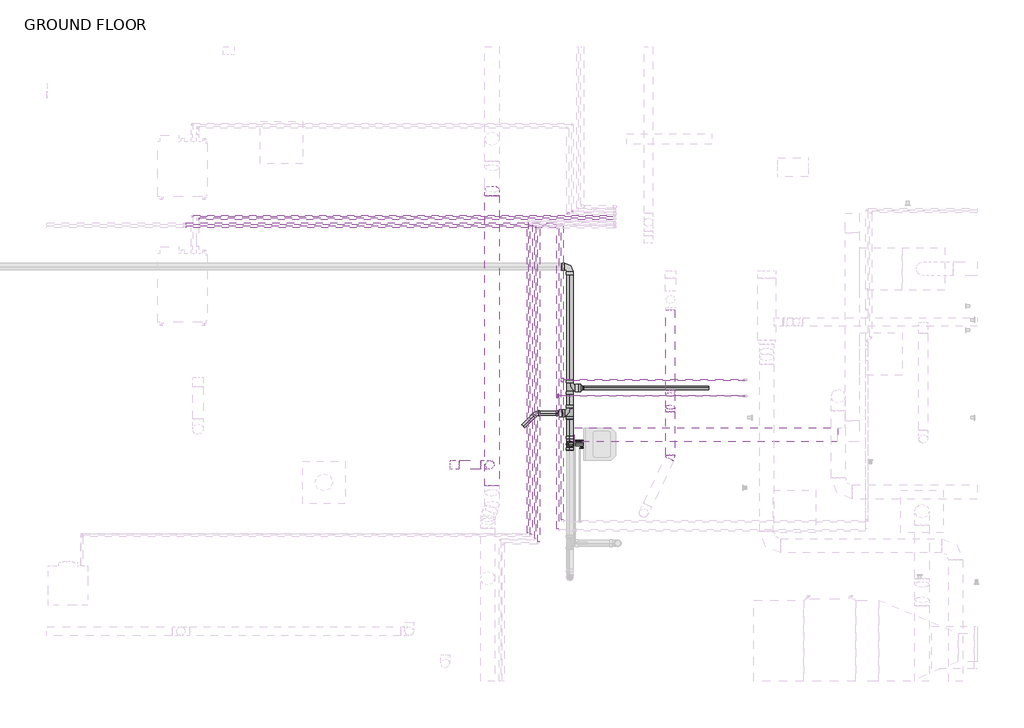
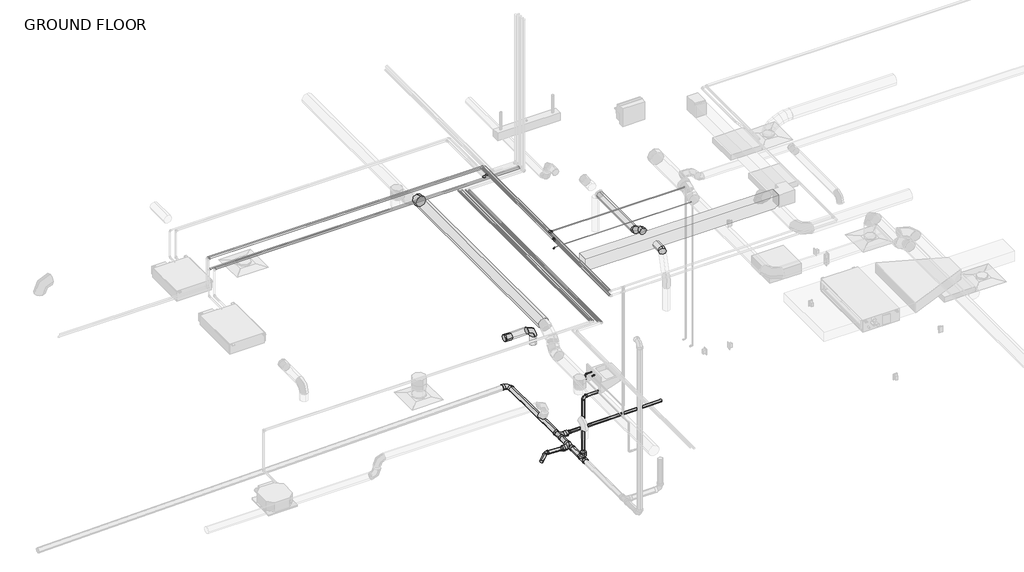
# One storey, part 13 of 22: 26 pipe segments, 20 pipe fittings, 7 duct segments, 6 duct fittings.
"""IFC4 building model written with IfcOpenShell, lengths in millimetres."""

from ifc_helpers import new_model, si_unit, point, frame, frame_2d, origin, place, context, project, spatial, polyline, circle_curve, trimmed, segment, composite_curve, outline, extrude, transform, mapped, element, save
from components import round_elbow_1_d_c80420c1, round_elbow_1_d_e295ca55, round_elbow_1_d_3986cbc1, round_elbow_1_d_d064e566, round_takeoff_standard_272bb003, bend_pvc_sch_40_dwv_standard_56513ac6, bend_pvc_sch_40_dwv_standard_ededf42e, bend_pvc_sch_40_dwv_standard_e753eb36, elbow_generic_standard_c06ac706, elbow_generic_standard_738589b0, elbow_generic_standard_a088f956, reducer_pvc_sch_40_dwv_standard_bed7e4d3, reducer_pvc_sch_40_dwv_standard_464ee0c2, reducer_pvc_sch_40_dwv_standard_215a8765, tee_generic_standard_d345b28c, tee_sanitary_pvc_sch_40_dwv_standard_1c89b272, tee_sanitary_pvc_sch_40_dwv_standard_8de014e1, tee_sanitary_pvc_sch_40_dwv_standard_db5afb07, transition_generic_standard_19d9bb8b

model = new_model("IFC4")

# Units and contexts
model_context = context("Model", 3, world=origin())
ifc_project = project(units=[si_unit("LENGTHUNIT", "METRE", prefix="MILLI")], contexts=[model_context])

# Site, building, storey
site = spatial("IfcSite", under=ifc_project)
building = spatial("IfcBuilding", under=site)
storey = spatial("IfcBuildingStorey", under=building, Name="GROUND FLOOR", Elevation=30480.0)

# Duct fittings
placement = place(None, origin())
round_elbow_1_d_shape = round_elbow_1_d_c80420c1(model_context)
element("IfcDuctFitting", 1, ObjectType="Round Elbow : 1 D", at=placement, inside=storey, context=model_context, shape_type="MappedRepresentation", body=[
    mapped(round_elbow_1_d_shape, transform((-11225.8454607, 4001.4945005, 33121.6), x_axis=(0.0, 0.0, 1.0), y_axis=(-1.0, 0.0, 0.0), z_axis=(0.0, -1.0, 0.0))),
])
round_elbow_1_d_2_shape = round_elbow_1_d_e295ca55(model_context)
element("IfcDuctFitting", 2, ObjectType="Round Elbow : 1 D", at=placement, inside=storey, context=model_context, shape_type="MappedRepresentation", body=[
    mapped(round_elbow_1_d_2_shape, transform((-11194.8892107, 7909.4416846, 33401.0), x_axis=(0.0, 1.0, 0.0), y_axis=(0.0, 0.0, -1.0), z_axis=(-1.0, 0.0, 0.0))),
])
round_elbow_1_d_3_shape = round_elbow_1_d_3986cbc1(model_context)
element("IfcDuctFitting", 3, ObjectType="Round Elbow : 1 D", at=placement, inside=storey, context=model_context, shape_type="MappedRepresentation", body=[
    mapped(round_elbow_1_d_3_shape, transform((-8636.6329607, 5039.7195005, 33629.6), x_axis=(0.0, -1.0, 0.0), y_axis=(0.0, 0.0, 1.0), z_axis=(-1.0, 0.0, 0.0))),
])
element("IfcDuctFitting", 4, ObjectType="Round Elbow : 1 D", at=placement, inside=storey, context=model_context, shape_type="MappedRepresentation", body=[
    mapped(round_elbow_1_d_3_shape, transform((-8636.6329607, 4797.7520027, 33769.3), x_axis=(0.0, -0.8660254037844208, 0.5000000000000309), y_axis=(0.0, -0.5000000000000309, -0.8660254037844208), z_axis=(1.0, 0.0, 0.0))),
])
round_elbow_1_d_4_shape = round_elbow_1_d_d064e566(model_context)
element("IfcDuctFitting", 5, ObjectType="Round Elbow : 1 D", at=placement, inside=storey, context=model_context, shape_type="MappedRepresentation", body=[
    mapped(round_elbow_1_d_4_shape, transform((-8636.6329607, 4111.9520027, 33769.3), x_axis=(0.4302942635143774, 0.9026886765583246, 0.0), y_axis=(-0.9026886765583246, 0.4302942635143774, 0.0), z_axis=(0.0, 0.0, 1.0))),
])
round_takeoff_standard_shape = round_takeoff_standard_272bb003(model_context)
element("IfcDuctFitting", 6, ObjectType="Round Takeoff : Standard", at=placement, inside=storey, context=model_context, shape_type="MappedRepresentation", body=[
    mapped(round_takeoff_standard_shape, transform((-11764.8513201, 4001.4945005, 33121.6), x_axis=(1.0, 0.0, 0.0), y_axis=(0.0, -1.0, 0.0), z_axis=(0.0, 0.0, -1.0))),
])

# Duct segments
element("IfcDuctSegment", 7, ObjectType="Mitered Elbows / Taps", at=placement, inside=storey, context=model_context, shape_type="SweptSolid", body=[
    extrude(outline(polyline([(-10008.1055151, 4328.5195005), (-10008.1055151, 4531.7195005), (-6233.0204015, 4531.7195005), (-6233.0204015, 4328.5195005), (-10008.1055151, 4328.5195005)])), frame((0.0, 0.0, 33680.4), z_axis=(0.0, 0.0, 1.0), x_axis=(1.0, 0.0, 0.0)), (0.0, 0.0, 1.0), 254.0),
])
element("IfcDuctSegment", 8, ObjectType="Taps / Short Radius", at=placement, inside=storey, context=model_context, shape_type="SweptSolid", body=[
    extrude(outline(composite_curve([segment(trimmed(circle_curve(frame_2d((33401.0, -11194.8892107)), 101.6), [point((33401.0, -11296.4892107))], [point((33299.4, -11194.8892107))], False, "CARTESIAN"), True, "CONTINUOUS"), segment(trimmed(circle_curve(frame_2d((33401.0, -11194.8892107)), 101.6), [point((33299.4, -11194.8892107))], [point((33401.0, -11093.2892107))], False, "CARTESIAN"), True, "CONTINUOUS"), segment(trimmed(circle_curve(frame_2d((33401.0, -11194.8892107)), 101.6), [point((33401.0, -11093.2892107))], [point((33502.6, -11194.8892107))], False, "CARTESIAN"), True, "CONTINUOUS"), segment(trimmed(circle_curve(frame_2d((33401.0, -11194.8892107)), 101.6), [point((33502.6, -11194.8892107))], [point((33401.0, -11296.4892107))], False, "CARTESIAN"), True, "CONTINUOUS")], self_intersect=False)), frame((0.0, 3698.5539502, 0.0), z_axis=(0.0, 1.0, 0.0), x_axis=(0.0, 0.0, 1.0)), (0.0, 0.0, 1.0), 4162.0088278),
])
element("IfcDuctSegment", 9, ObjectType="Taps / Short Radius", at=placement, inside=storey, context=model_context, shape_type="SweptSolid", body=[
    extrude(outline(composite_curve([segment(trimmed(circle_curve(frame_2d((-11225.8454607, 4001.4945005)), 63.5), [point((-11289.3454607, 4001.4945005))], [point((-11225.8454607, 4064.9945005))], False, "CARTESIAN"), True, "CONTINUOUS"), segment(trimmed(circle_curve(frame_2d((-11225.8454607, 4001.4945005)), 63.5), [point((-11225.8454607, 4064.9945005))], [point((-11162.3454607, 4001.4945005))], False, "CARTESIAN"), True, "CONTINUOUS"), segment(trimmed(circle_curve(frame_2d((-11225.8454607, 4001.4945005)), 63.5), [point((-11162.3454607, 4001.4945005))], [point((-11225.8454607, 3937.9945005))], False, "CARTESIAN"), True, "CONTINUOUS"), segment(trimmed(circle_curve(frame_2d((-11225.8454607, 4001.4945005)), 63.5), [point((-11225.8454607, 3937.9945005))], [point((-11289.3454607, 4001.4945005))], False, "CARTESIAN"), True, "CONTINUOUS")], self_intersect=False)), frame((0.0, 0.0, 32816.8), z_axis=(0.0, 0.0, 1.0), x_axis=(1.0, 0.0, 0.0)), (0.0, 0.0, 1.0), 177.8),
])
element("IfcDuctSegment", 10, ObjectType="Taps / Short Radius", at=placement, inside=storey, context=model_context, shape_type="SweptSolid", body=[
    extrude(outline(composite_curve([segment(trimmed(circle_curve(frame_2d((4001.4945005, 33121.6)), 63.5), [point((4064.9945005, 33121.6))], [point((4001.4945005, 33058.1))], False, "CARTESIAN"), True, "CONTINUOUS"), segment(trimmed(circle_curve(frame_2d((4001.4945005, 33121.6)), 63.5), [point((4001.4945005, 33058.1))], [point((3937.9945005, 33121.6))], False, "CARTESIAN"), True, "CONTINUOUS"), segment(trimmed(circle_curve(frame_2d((4001.4945005, 33121.6)), 63.5), [point((3937.9945005, 33121.6))], [point((4001.4945005, 33185.1))], False, "CARTESIAN"), True, "CONTINUOUS"), segment(trimmed(circle_curve(frame_2d((4001.4945005, 33121.6)), 63.5), [point((4001.4945005, 33185.1))], [point((4064.9945005, 33121.6))], False, "CARTESIAN"), True, "CONTINUOUS")], self_intersect=False)), frame((-11663.2513201, 0.0, 0.0), z_axis=(1.0, 0.0, 0.0), x_axis=(0.0, 1.0, 0.0)), (0.0, 0.0, 1.0), 310.4058594),
])
element("IfcDuctSegment", 11, ObjectType="Taps / Short Radius", at=placement, inside=storey, context=model_context, shape_type="SweptSolid", body=[
    extrude(outline(composite_curve([segment(trimmed(circle_curve(frame_2d((33629.6, -8636.6329607)), 63.5), [point((33629.6, -8700.1329607))], [point((33566.1, -8636.6329607))], False, "CARTESIAN"), True, "CONTINUOUS"), segment(trimmed(circle_curve(frame_2d((33629.6, -8636.6329607)), 63.5), [point((33566.1, -8636.6329607))], [point((33629.6, -8573.1329607))], False, "CARTESIAN"), True, "CONTINUOUS"), segment(trimmed(circle_curve(frame_2d((33629.6, -8636.6329607)), 63.5), [point((33629.6, -8573.1329607))], [point((33693.1, -8636.6329607))], False, "CARTESIAN"), True, "CONTINUOUS"), segment(trimmed(circle_curve(frame_2d((33629.6, -8636.6329607)), 63.5), [point((33693.1, -8636.6329607))], [point((33629.6, -8700.1329607))], False, "CARTESIAN"), True, "CONTINUOUS")], self_intersect=False)), frame((0.0, 5073.749048, 0.0), z_axis=(0.0, 1.0, 0.0), x_axis=(0.0, 0.0, 1.0)), (0.0, 0.0, 1.0), 1154.5099403),
])
element("IfcDuctSegment", 12, ObjectType="Taps / Short Radius", at=placement, inside=storey, context=model_context, shape_type="SweptSolid", body=[
    extrude(outline(composite_curve([segment(trimmed(circle_curve(frame_2d((0.0, 63.5)), 63.5), [point((-63.5, 63.5))], [point((0.0, 127.0))], False, "CARTESIAN"), True, "CONTINUOUS"), segment(trimmed(circle_curve(frame_2d((0.0, 63.5)), 63.5), [point((0.0, 127.0))], [point((63.5, 63.5))], False, "CARTESIAN"), True, "CONTINUOUS"), segment(trimmed(circle_curve(frame_2d((0.0, 63.5)), 63.5), [point((63.5, 63.5))], [point((0.0, 0.0))], False, "CARTESIAN"), True, "CONTINUOUS"), segment(trimmed(circle_curve(frame_2d((0.0, 63.5)), 63.5), [point((0.0, 0.0))], [point((-63.5, 63.5))], False, "CARTESIAN"), True, "CONTINUOUS")], self_intersect=False)), frame((-8636.6329607, 4978.499048, 33591.6221606), z_axis=(0.0, -0.8660254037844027, 0.5000000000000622), x_axis=(1.0, 0.0, 0.0)), (0.0, 0.0, 1.0), 211.3409051),
])
element("IfcDuctSegment", 13, ObjectType="Taps / Short Radius", at=placement, inside=storey, context=model_context, shape_type="SweptSolid", body=[
    extrude(outline(composite_curve([segment(trimmed(circle_curve(frame_2d((33769.3, -8636.6329607)), 63.5), [point((33769.3, -8700.1329607))], [point((33705.8, -8636.6329607))], False, "CARTESIAN"), True, "CONTINUOUS"), segment(trimmed(circle_curve(frame_2d((33769.3, -8636.6329607)), 63.5), [point((33705.8, -8636.6329607))], [point((33769.3, -8573.1329607))], False, "CARTESIAN"), True, "CONTINUOUS"), segment(trimmed(circle_curve(frame_2d((33769.3, -8636.6329607)), 63.5), [point((33769.3, -8573.1329607))], [point((33832.8, -8636.6329607))], False, "CARTESIAN"), True, "CONTINUOUS"), segment(trimmed(circle_curve(frame_2d((33769.3, -8636.6329607)), 63.5), [point((33832.8, -8636.6329607))], [point((33769.3, -8700.1329607))], False, "CARTESIAN"), True, "CONTINUOUS")], self_intersect=False)), frame((0.0, 4140.6731341, 0.0), z_axis=(0.0, 1.0, 0.0), x_axis=(0.0, 0.0, 1.0)), (0.0, 0.0, 1.0), 623.0493212),
])

# Pipe fittings
bend_pvc_sch_40_dwv_standard_shape = bend_pvc_sch_40_dwv_standard_56513ac6(model_context)
element("IfcPipeFitting", 14, ObjectType="Bend - PVC - Sch 40 - DWV : Standard", at=placement, inside=storey, context=model_context, shape_type="MappedRepresentation", body=[
    mapped(bend_pvc_sch_40_dwv_standard_shape, transform((-10076.4954607, 4296.7695005, 31136.2328125), x_axis=(0.0, 0.0, 1.0), y_axis=(1.0, 0.0, 0.0), z_axis=(0.0, 1.0, 0.0))),
])
element("IfcPipeFitting", 15, ObjectType="Bend - PVC - Sch 40 - DWV : Standard", at=placement, inside=storey, context=model_context, shape_type="MappedRepresentation", body=[
    mapped(bend_pvc_sch_40_dwv_standard_shape, transform((-9676.4454607, 4296.7695005, 31140.4), x_axis=(0.0, 0.0, -1.0), y_axis=(-1.0, 0.0, 0.0), z_axis=(0.0, 1.0, 0.0))),
])
bend_pvc_sch_40_dwv_standard_2_shape = bend_pvc_sch_40_dwv_standard_ededf42e(model_context)
element("IfcPipeFitting", 16, ObjectType="Bend - PVC - Sch 40 - DWV : Standard", at=placement, inside=storey, context=model_context, shape_type="MappedRepresentation", body=[
    mapped(bend_pvc_sch_40_dwv_standard_2_shape, transform((-10562.1755783, 4741.1412671, 29872.3037761), x_axis=(-0.9982875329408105, 0.0, 0.05849787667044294), y_axis=(-0.003416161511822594, -0.9982933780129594, -0.058298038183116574), z_axis=(0.05839804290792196, -0.058398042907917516, 0.996583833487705))),
])
bend_pvc_sch_40_dwv_standard_3_shape = bend_pvc_sch_40_dwv_standard_e753eb36(model_context)
element("IfcPipeFitting", 17, ObjectType="Bend - PVC - Sch 40 - DWV : Standard", at=placement, inside=storey, context=model_context, shape_type="MappedRepresentation", body=[
    mapped(bend_pvc_sch_40_dwv_standard_3_shape, transform((-10076.4954607, 6844.7205674, 29821.9314993), x_axis=(0.0, 0.9999457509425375, -0.010416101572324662), y_axis=(-0.9997830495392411, -0.00021695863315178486, -0.02082802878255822), z_axis=(-0.020829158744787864, 0.010413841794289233, 0.9997288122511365))),
])
elbow_generic_standard_shape = elbow_generic_standard_c06ac706(model_context)
element("IfcPipeFitting", 18, ObjectType="Elbow - Generic : Standard", at=placement, inside=storey, context=model_context, shape_type="MappedRepresentation", body=[
    mapped(elbow_generic_standard_shape, transform((-10108.9967002, 7600.6601211, 33680.4), x_axis=(0.0, -1.0, 0.0), y_axis=(1.0, 0.0, 0.0), z_axis=(0.0, 0.0, 1.0))),
])
elbow_generic_standard_2_shape = elbow_generic_standard_738589b0(model_context)
element("IfcPipeFitting", 19, ObjectType="Elbow - Generic : Standard", at=placement, inside=storey, context=model_context, shape_type="MappedRepresentation", body=[
    mapped(elbow_generic_standard_2_shape, transform((-10040.0330578, 7633.6461875, 33680.4), x_axis=(0.0, -1.0, 0.0), y_axis=(1.0, 0.0, 0.0), z_axis=(0.0, 0.0, 1.0))),
])
elbow_generic_standard_3_shape = elbow_generic_standard_a088f956(model_context)
element("IfcPipeFitting", 20, ObjectType="Elbow - Generic : Standard", at=placement, inside=storey, context=model_context, shape_type="MappedRepresentation", body=[
    mapped(elbow_generic_standard_3_shape, transform((-9933.6204607, 4245.9695005, 31546.8), x_axis=(-1.0, 0.0, 0.0), y_axis=(0.0, -1.0, 0.0), z_axis=(0.0, 0.0, 1.0))),
])
element("IfcPipeFitting", 21, ObjectType="Elbow - Generic : Standard", at=placement, inside=storey, context=model_context, shape_type="MappedRepresentation", body=[
    mapped(elbow_generic_standard_3_shape, transform((-10009.8204607, 4347.5695005, 31546.8), x_axis=(-1.0, 0.0, 0.0), y_axis=(0.0, 0.0, -1.0), z_axis=(0.0, -1.0, 0.0))),
])
element("IfcPipeFitting", 22, ObjectType="Elbow - Generic : Standard", at=placement, inside=storey, context=model_context, shape_type="MappedRepresentation", body=[
    mapped(elbow_generic_standard_3_shape, transform((-10009.8204607, 4347.5695005, 31444.5384847), x_axis=(0.0, 1.0, 0.0), y_axis=(0.0, 0.0, 1.0), z_axis=(1.0, 0.0, 0.0))),
])
element("IfcPipeFitting", 23, ObjectType="Elbow - Generic : Standard", at=placement, inside=storey, context=model_context, shape_type="MappedRepresentation", body=[
    mapped(elbow_generic_standard_3_shape, transform((-10252.7079607, 4988.9195005, 33855.358114), x_axis=(0.0, 0.0, 1.0), y_axis=(1.0, 0.0, 0.0), z_axis=(0.0, 1.0, 0.0))),
])
reducer_pvc_sch_40_dwv_standard_shape = reducer_pvc_sch_40_dwv_standard_bed7e4d3(model_context)
element("IfcPipeFitting", 24, ObjectType="Reducer - PVC - Sch 40 - DWV : Standard", at=placement, inside=storey, context=model_context, shape_type="MappedRepresentation", body=[
    mapped(reducer_pvc_sch_40_dwv_standard_shape, transform((-10076.4954607, 4296.7894799, 29964.3726481), x_axis=(0.0, 0.0, 1.0), y_axis=(0.0, 1.0, 0.0), z_axis=(-1.0, 0.0, 0.0))),
])
reducer_pvc_sch_40_dwv_standard_2_shape = reducer_pvc_sch_40_dwv_standard_464ee0c2(model_context)
element("IfcPipeFitting", 25, ObjectType="Reducer - PVC - Sch 40 - DWV : Standard", at=placement, inside=storey, context=model_context, shape_type="MappedRepresentation", body=[
    mapped(reducer_pvc_sch_40_dwv_standard_2_shape, transform((-10192.1971854, 4741.1412671, 29850.6236993), x_axis=(-0.9982875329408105, 0.0, 0.05849787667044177), y_axis=(0.0006082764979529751, -0.9999459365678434, 0.01038045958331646), z_axis=(0.05849471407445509, 0.010398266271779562, 0.9982335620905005))),
])
reducer_pvc_sch_40_dwv_standard_3_shape = reducer_pvc_sch_40_dwv_standard_215a8765(model_context)
element("IfcPipeFitting", 26, ObjectType="Reducer - PVC - Sch 40 - DWV : Standard", at=placement, inside=storey, context=model_context, shape_type="MappedRepresentation", body=[
    mapped(reducer_pvc_sch_40_dwv_standard_3_shape, transform((-9960.6015482, 5103.2394799, 29841.2791556), x_axis=(0.9999457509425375, 0.0, 0.010416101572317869), y_axis=(0.00010848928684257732, 0.9999457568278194, -0.010414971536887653), z_axis=(-0.010415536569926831, 0.010415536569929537, 0.9998915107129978))),
])
tee_generic_standard_shape = tee_generic_standard_d345b28c(model_context)
element("IfcPipeFitting", 27, ObjectType="Tee - Generic : Standard", at=placement, inside=storey, context=model_context, shape_type="MappedRepresentation", body=[
    mapped(tee_generic_standard_shape, transform((-10189.2079607, 5217.5195005, 34023.3), x_axis=(0.0, -1.0, 0.0), y_axis=(-1.0, 0.0, 0.0), z_axis=(0.0, 0.0, -1.0))),
])
element("IfcPipeFitting", 28, ObjectType="Tee - Generic : Standard", at=placement, inside=storey, context=model_context, shape_type="MappedRepresentation", body=[
    mapped(tee_generic_standard_shape, transform((-10252.7079607, 4988.9195005, 34023.3), x_axis=(0.0, -1.0, 0.0), y_axis=(0.0, 0.0, -1.0), z_axis=(1.0, 0.0, 0.0))),
])
tee_sanitary_pvc_sch_40_dwv_standard_shape = tee_sanitary_pvc_sch_40_dwv_standard_1c89b272(model_context)
element("IfcPipeFitting", 29, ObjectType="Tee Sanitary - PVC - Sch 40 - DWV : Standard", at=placement, inside=storey, context=model_context, shape_type="MappedRepresentation", body=[
    mapped(tee_sanitary_pvc_sch_40_dwv_standard_shape, transform((-10076.4954607, 4296.7894799, 29848.4724481), x_axis=(0.0, -0.9999457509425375, 0.010416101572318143), y_axis=(0.0, -0.010416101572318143, -0.9999457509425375), z_axis=(1.0, 0.0, 0.0))),
])
tee_sanitary_pvc_sch_40_dwv_standard_2_shape = tee_sanitary_pvc_sch_40_dwv_standard_8de014e1(model_context)
element("IfcPipeFitting", 30, ObjectType="Tee Sanitary - PVC - Sch 40 - DWV : Standard", at=placement, inside=storey, context=model_context, shape_type="MappedRepresentation", body=[
    mapped(tee_sanitary_pvc_sch_40_dwv_standard_2_shape, transform((-10076.4954607, 5103.2394799, 29840.0719273), x_axis=(0.0, -0.9999457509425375, 0.010416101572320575), y_axis=(-0.9999457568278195, -0.00010848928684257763, -0.01041497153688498), z_axis=(0.010415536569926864, -0.010415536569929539, -0.9998915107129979))),
])
tee_sanitary_pvc_sch_40_dwv_standard_3_shape = tee_sanitary_pvc_sch_40_dwv_standard_db5afb07(model_context)
element("IfcPipeFitting", 31, ObjectType="Tee Sanitary - PVC - Sch 40 - DWV : Standard", at=placement, inside=storey, context=model_context, shape_type="MappedRepresentation", body=[
    mapped(tee_sanitary_pvc_sch_40_dwv_standard_3_shape, transform((-10076.4954607, 4741.1412671, 29843.8437837), x_axis=(0.0, -0.9999457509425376, 0.010416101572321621), y_axis=(0.9982877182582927, -0.0006092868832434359, -0.05849154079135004), z_axis=(0.05849471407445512, 0.010398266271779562, 0.9982335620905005))),
])
transition_generic_standard_shape = transition_generic_standard_19d9bb8b(model_context)
element("IfcPipeFitting", 32, ObjectType="Transition - Generic : Standard", at=placement, inside=storey, context=model_context, shape_type="MappedRepresentation", body=[
    mapped(transition_generic_standard_shape, transform((-10162.2204607, 5217.5195005, 34023.3), x_axis=(1.0, 0.0, 0.0), y_axis=(0.0, 1.0, 0.0), z_axis=(0.0, 0.0, 1.0))),
])
element("IfcPipeFitting", 33, ObjectType="Transition - Generic : Standard", at=placement, inside=storey, context=model_context, shape_type="MappedRepresentation", body=[
    mapped(transition_generic_standard_shape, transform((-10252.7079607, 4988.9195005, 34050.2875), x_axis=(0.0, 0.0, 1.0), y_axis=(0.0, 1.0, 0.0), z_axis=(-1.0, 0.0, 0.0))),
])

# Pipe segments
element("IfcPipeSegment", 34, ObjectType="Copper Tubing", at=placement, inside=storey, context=model_context, shape_type="SweptSolid", body=[
    extrude(outline(composite_curve([segment(trimmed(circle_curve(frame_2d((7567.6740548, 33680.4)), 11.1125), [point((7556.5615548, 33680.4))], [point((7567.6740548, 33691.5125))], False, "CARTESIAN"), True, "CONTINUOUS"), segment(trimmed(circle_curve(frame_2d((7567.6740548, 33680.4)), 11.1125), [point((7567.6740548, 33691.5125))], [point((7578.7865548, 33680.4))], False, "CARTESIAN"), True, "CONTINUOUS"), segment(trimmed(circle_curve(frame_2d((7567.6740548, 33680.4)), 11.1125), [point((7578.7865548, 33680.4))], [point((7567.6740548, 33669.2875))], False, "CARTESIAN"), True, "CONTINUOUS"), segment(trimmed(circle_curve(frame_2d((7567.6740548, 33680.4)), 11.1125), [point((7567.6740548, 33669.2875))], [point((7556.5615548, 33680.4))], False, "CARTESIAN"), True, "CONTINUOUS")], self_intersect=False)), frame((-15480.8552546, 0.0, 0.0), z_axis=(1.0, 0.0, 0.0), x_axis=(0.0, 1.0, 0.0)), (0.0, 0.0, 1.0), 6033.8035439),
])
element("IfcPipeSegment", 35, ObjectType="Copper Tubing", at=placement, inside=storey, context=model_context, shape_type="SweptSolid", body=[
    extrude(outline(composite_curve([segment(trimmed(circle_curve(frame_2d((7528.3379884, 33680.4)), 14.2875), [point((7514.0504884, 33680.4))], [point((7528.3379884, 33694.6875))], False, "CARTESIAN"), True, "CONTINUOUS"), segment(trimmed(circle_curve(frame_2d((7528.3379884, 33680.4)), 14.2875), [point((7528.3379884, 33694.6875))], [point((7542.6254884, 33680.4))], False, "CARTESIAN"), True, "CONTINUOUS"), segment(trimmed(circle_curve(frame_2d((7528.3379884, 33680.4)), 14.2875), [point((7542.6254884, 33680.4))], [point((7528.3379884, 33666.1125))], False, "CARTESIAN"), True, "CONTINUOUS"), segment(trimmed(circle_curve(frame_2d((7528.3379884, 33680.4)), 14.2875), [point((7528.3379884, 33666.1125))], [point((7514.0504884, 33680.4))], False, "CARTESIAN"), True, "CONTINUOUS")], self_intersect=False)), frame((-15394.485895, 0.0, 0.0), z_axis=(1.0, 0.0, 0.0), x_axis=(0.0, 1.0, 0.0)), (0.0, 0.0, 1.0), 5944.2591843),
])
element("IfcPipeSegment", 36, ObjectType="Copper Tubing", at=placement, inside=storey, context=model_context, shape_type="SweptSolid", body=[
    extrude(outline(composite_curve([segment(trimmed(circle_curve(frame_2d((33680.4, -10682.7765455)), 7.9375), [point((33680.4, -10674.8390455))], [point((33688.3375, -10682.7765455))], False, "CARTESIAN"), True, "CONTINUOUS"), segment(trimmed(circle_curve(frame_2d((33680.4, -10682.7765455)), 7.9375), [point((33688.3375, -10682.7765455))], [point((33680.4, -10690.7140455))], False, "CARTESIAN"), True, "CONTINUOUS"), segment(trimmed(circle_curve(frame_2d((33680.4, -10682.7765455)), 7.9375), [point((33680.4, -10690.7140455))], [point((33672.4625, -10682.7765455))], False, "CARTESIAN"), True, "CONTINUOUS"), segment(trimmed(circle_curve(frame_2d((33680.4, -10682.7765455)), 7.9375), [point((33672.4625, -10682.7765455))], [point((33680.4, -10674.8390455))], False, "CARTESIAN"), True, "CONTINUOUS")], self_intersect=False)), frame((0.0, 3028.1140677, 0.0), z_axis=(0.0, 1.0, 0.0), x_axis=(0.0, 0.0, 1.0)), (0.0, 0.0, 1.0), 4452.9503543),
])
element("IfcPipeSegment", 37, ObjectType="Copper Tubing", at=placement, inside=storey, context=model_context, shape_type="SweptSolid", body=[
    extrude(outline(composite_curve([segment(trimmed(circle_curve(frame_2d((33680.4, -10635.1515455)), 14.2875), [point((33680.4, -10620.8640455))], [point((33694.6875, -10635.1515455))], False, "CARTESIAN"), True, "CONTINUOUS"), segment(trimmed(circle_curve(frame_2d((33680.4, -10635.1515455)), 14.2875), [point((33694.6875, -10635.1515455))], [point((33680.4, -10649.4390455))], False, "CARTESIAN"), True, "CONTINUOUS"), segment(trimmed(circle_curve(frame_2d((33680.4, -10635.1515455)), 14.2875), [point((33680.4, -10649.4390455))], [point((33666.1125, -10635.1515455))], False, "CARTESIAN"), True, "CONTINUOUS"), segment(trimmed(circle_curve(frame_2d((33680.4, -10635.1515455)), 14.2875), [point((33666.1125, -10635.1515455))], [point((33680.4, -10620.8640455))], False, "CARTESIAN"), True, "CONTINUOUS")], self_intersect=False)), frame((0.0, 3004.9049809, 0.0), z_axis=(0.0, 1.0, 0.0), x_axis=(0.0, 0.0, 1.0)), (0.0, 0.0, 1.0), 4440.2503543),
])
element("IfcPipeSegment", 38, ObjectType="Copper Tubing", at=placement, inside=storey, context=model_context, shape_type="SweptSolid", body=[
    extrude(outline(composite_curve([segment(trimmed(circle_curve(frame_2d((33680.4, -10572.5892107)), 7.9375), [point((33680.4, -10564.6517107))], [point((33688.3375, -10572.5892107))], False, "CARTESIAN"), True, "CONTINUOUS"), segment(trimmed(circle_curve(frame_2d((33680.4, -10572.5892107)), 7.9375), [point((33688.3375, -10572.5892107))], [point((33680.4, -10580.5267107))], False, "CARTESIAN"), True, "CONTINUOUS"), segment(trimmed(circle_curve(frame_2d((33680.4, -10572.5892107)), 7.9375), [point((33680.4, -10580.5267107))], [point((33672.4625, -10572.5892107))], False, "CARTESIAN"), True, "CONTINUOUS"), segment(trimmed(circle_curve(frame_2d((33680.4, -10572.5892107)), 7.9375), [point((33672.4625, -10572.5892107))], [point((33680.4, -10564.6517107))], False, "CARTESIAN"), True, "CONTINUOUS")], self_intersect=False)), frame((0.0, 2944.3718297, 0.0), z_axis=(0.0, 1.0, 0.0), x_axis=(0.0, 0.0, 1.0)), (0.0, 0.0, 1.0), 4479.8720779),
])
element("IfcPipeSegment", 39, ObjectType="Copper Tubing", at=placement, inside=storey, context=model_context, shape_type="SweptSolid", body=[
    extrude(outline(composite_curve([segment(trimmed(circle_curve(frame_2d((33680.4, -10524.9642107)), 14.2875), [point((33680.4, -10510.6767107))], [point((33694.6875, -10524.9642107))], False, "CARTESIAN"), True, "CONTINUOUS"), segment(trimmed(circle_curve(frame_2d((33680.4, -10524.9642107)), 14.2875), [point((33694.6875, -10524.9642107))], [point((33680.4, -10539.2517107))], False, "CARTESIAN"), True, "CONTINUOUS"), segment(trimmed(circle_curve(frame_2d((33680.4, -10524.9642107)), 14.2875), [point((33680.4, -10539.2517107))], [point((33666.1125, -10524.9642107))], False, "CARTESIAN"), True, "CONTINUOUS"), segment(trimmed(circle_curve(frame_2d((33680.4, -10524.9642107)), 14.2875), [point((33666.1125, -10524.9642107))], [point((33680.4, -10510.6767107))], False, "CARTESIAN"), True, "CONTINUOUS")], self_intersect=False)), frame((0.0, 2896.4918566, 0.0), z_axis=(0.0, 1.0, 0.0), x_axis=(0.0, 0.0, 1.0)), (0.0, 0.0, 1.0), 4492.5720779),
])
element("IfcPipeSegment", 40, ObjectType="Copper Tubing", at=placement, inside=storey, context=model_context, shape_type="SweptSolid", body=[
    extrude(outline(composite_curve([segment(trimmed(circle_curve(frame_2d((4245.9695005, 31546.8)), 7.9375), [point((4253.9070005, 31546.8))], [point((4245.9695005, 31538.8625))], False, "CARTESIAN"), True, "CONTINUOUS"), segment(trimmed(circle_curve(frame_2d((4245.9695005, 31546.8)), 7.9375), [point((4245.9695005, 31538.8625))], [point((4238.0320005, 31546.8))], False, "CARTESIAN"), True, "CONTINUOUS"), segment(trimmed(circle_curve(frame_2d((4245.9695005, 31546.8)), 7.9375), [point((4238.0320005, 31546.8))], [point((4245.9695005, 31554.7375))], False, "CARTESIAN"), True, "CONTINUOUS"), segment(trimmed(circle_curve(frame_2d((4245.9695005, 31546.8)), 7.9375), [point((4245.9695005, 31554.7375))], [point((4253.9070005, 31546.8))], False, "CARTESIAN"), True, "CONTINUOUS")], self_intersect=False)), frame((-9919.3329607, 0.0, 0.0), z_axis=(1.0, 0.0, 0.0), x_axis=(0.0, 1.0, 0.0)), (0.0, 0.0, 1.0), 39.6875),
])
element("IfcPipeSegment", 41, ObjectType="Copper Tubing", at=placement, inside=storey, context=model_context, shape_type="SweptSolid", body=[
    extrude(outline(composite_curve([segment(trimmed(circle_curve(frame_2d((-10009.8204607, 4347.5695005)), 7.9375), [point((-10001.8829607, 4347.5695005))], [point((-10009.8204607, 4339.6320005))], False, "CARTESIAN"), True, "CONTINUOUS"), segment(trimmed(circle_curve(frame_2d((-10009.8204607, 4347.5695005)), 7.9375), [point((-10009.8204607, 4339.6320005))], [point((-10017.7579607, 4347.5695005))], False, "CARTESIAN"), True, "CONTINUOUS"), segment(trimmed(circle_curve(frame_2d((-10009.8204607, 4347.5695005)), 7.9375), [point((-10017.7579607, 4347.5695005))], [point((-10009.8204607, 4355.5070005))], False, "CARTESIAN"), True, "CONTINUOUS"), segment(trimmed(circle_curve(frame_2d((-10009.8204607, 4347.5695005)), 7.9375), [point((-10009.8204607, 4355.5070005))], [point((-10001.8829607, 4347.5695005))], False, "CARTESIAN"), True, "CONTINUOUS")], self_intersect=False)), frame((0.0, 0.0, 31458.8259847), z_axis=(0.0, 0.0, 1.0), x_axis=(1.0, 0.0, 0.0)), (0.0, 0.0, 1.0), 73.6865153),
])
element("IfcPipeSegment", 42, ObjectType="Copper Tubing", at=placement, inside=storey, context=model_context, shape_type="SweptSolid", body=[
    extrude(outline(composite_curve([segment(trimmed(circle_curve(frame_2d((4347.5695005, 31546.8)), 7.9375), [point((4355.5070005, 31546.8))], [point((4347.5695005, 31538.8625))], False, "CARTESIAN"), True, "CONTINUOUS"), segment(trimmed(circle_curve(frame_2d((4347.5695005, 31546.8)), 7.9375), [point((4347.5695005, 31538.8625))], [point((4339.6320005, 31546.8))], False, "CARTESIAN"), True, "CONTINUOUS"), segment(trimmed(circle_curve(frame_2d((4347.5695005, 31546.8)), 7.9375), [point((4339.6320005, 31546.8))], [point((4347.5695005, 31554.7375))], False, "CARTESIAN"), True, "CONTINUOUS"), segment(trimmed(circle_curve(frame_2d((4347.5695005, 31546.8)), 7.9375), [point((4347.5695005, 31554.7375))], [point((4355.5070005, 31546.8))], False, "CARTESIAN"), True, "CONTINUOUS")], self_intersect=False)), frame((-9995.5329607, 0.0, 0.0), z_axis=(1.0, 0.0, 0.0), x_axis=(0.0, 1.0, 0.0)), (0.0, 0.0, 1.0), 115.8875),
])
element("IfcPipeSegment", 43, ObjectType="Copper Tubing", at=placement, inside=storey, context=model_context, shape_type="SweptSolid", body=[
    extrude(outline(composite_curve([segment(trimmed(circle_curve(frame_2d((34023.3, -10189.2079607)), 14.2875), [point((34023.3, -10174.9204607))], [point((34037.5875, -10189.2079607))], False, "CARTESIAN"), True, "CONTINUOUS"), segment(trimmed(circle_curve(frame_2d((34023.3, -10189.2079607)), 14.2875), [point((34037.5875, -10189.2079607))], [point((34023.3, -10203.4954607))], False, "CARTESIAN"), True, "CONTINUOUS"), segment(trimmed(circle_curve(frame_2d((34023.3, -10189.2079607)), 14.2875), [point((34023.3, -10203.4954607))], [point((34009.0125, -10189.2079607))], False, "CARTESIAN"), True, "CONTINUOUS"), segment(trimmed(circle_curve(frame_2d((34023.3, -10189.2079607)), 14.2875), [point((34009.0125, -10189.2079607))], [point((34023.3, -10174.9204607))], False, "CARTESIAN"), True, "CONTINUOUS")], self_intersect=False)), frame((0.0, 5244.5070005, 0.0), z_axis=(0.0, 1.0, 0.0), x_axis=(0.0, 0.0, 1.0)), (0.0, 0.0, 1.0), 2195.1273513),
])
element("IfcPipeSegment", 44, ObjectType="Copper Tubing", at=placement, inside=storey, context=model_context, shape_type="SweptSolid", body=[
    extrude(outline(composite_curve([segment(trimmed(circle_curve(frame_2d((34023.3, -10252.7079607)), 14.2875), [point((34023.3, -10238.4204607))], [point((34037.5875, -10252.7079607))], False, "CARTESIAN"), True, "CONTINUOUS"), segment(trimmed(circle_curve(frame_2d((34023.3, -10252.7079607)), 14.2875), [point((34037.5875, -10252.7079607))], [point((34023.3, -10266.9954607))], False, "CARTESIAN"), True, "CONTINUOUS"), segment(trimmed(circle_curve(frame_2d((34023.3, -10252.7079607)), 14.2875), [point((34023.3, -10266.9954607))], [point((34009.0125, -10252.7079607))], False, "CARTESIAN"), True, "CONTINUOUS"), segment(trimmed(circle_curve(frame_2d((34023.3, -10252.7079607)), 14.2875), [point((34009.0125, -10252.7079607))], [point((34023.3, -10238.4204607))], False, "CARTESIAN"), True, "CONTINUOUS")], self_intersect=False)), frame((0.0, 5015.9070005, 0.0), z_axis=(0.0, 1.0, 0.0), x_axis=(0.0, 0.0, 1.0)), (0.0, 0.0, 1.0), 2379.2773513),
])
element("IfcPipeSegment", 45, ObjectType="Copper Tubing", at=placement, inside=storey, context=model_context, shape_type="SweptSolid", body=[
    extrude(outline(composite_curve([segment(trimmed(circle_curve(frame_2d((5217.5195005, 34023.3)), 7.9375), [point((5209.5820005, 34023.3))], [point((5217.5195005, 34031.2375))], False, "CARTESIAN"), True, "CONTINUOUS"), segment(trimmed(circle_curve(frame_2d((5217.5195005, 34023.3)), 7.9375), [point((5217.5195005, 34031.2375))], [point((5225.4570005, 34023.3))], False, "CARTESIAN"), True, "CONTINUOUS"), segment(trimmed(circle_curve(frame_2d((5217.5195005, 34023.3)), 7.9375), [point((5225.4570005, 34023.3))], [point((5217.5195005, 34015.3625))], False, "CARTESIAN"), True, "CONTINUOUS"), segment(trimmed(circle_curve(frame_2d((5217.5195005, 34023.3)), 7.9375), [point((5217.5195005, 34015.3625))], [point((5209.5820005, 34023.3))], False, "CARTESIAN"), True, "CONTINUOUS")], self_intersect=False)), frame((-10155.0767107, 0.0, 0.0), z_axis=(1.0, 0.0, 0.0), x_axis=(0.0, 1.0, 0.0)), (0.0, 0.0, 1.0), 2597.94375),
])
element("IfcPipeSegment", 46, ObjectType="Copper Tubing", at=placement, inside=storey, context=model_context, shape_type="SweptSolid", body=[
    extrude(outline(composite_curve([segment(trimmed(circle_curve(frame_2d((34023.3, -10189.2079607)), 14.2875), [point((34023.3, -10174.9204607))], [point((34037.5875, -10189.2079607))], False, "CARTESIAN"), True, "CONTINUOUS"), segment(trimmed(circle_curve(frame_2d((34023.3, -10189.2079607)), 14.2875), [point((34037.5875, -10189.2079607))], [point((34023.3, -10203.4954607))], False, "CARTESIAN"), True, "CONTINUOUS"), segment(trimmed(circle_curve(frame_2d((34023.3, -10189.2079607)), 14.2875), [point((34023.3, -10203.4954607))], [point((34009.0125, -10189.2079607))], False, "CARTESIAN"), True, "CONTINUOUS"), segment(trimmed(circle_curve(frame_2d((34023.3, -10189.2079607)), 14.2875), [point((34009.0125, -10189.2079607))], [point((34023.3, -10174.9204607))], False, "CARTESIAN"), True, "CONTINUOUS")], self_intersect=False)), frame((0.0, 3213.7093518, 0.0), z_axis=(0.0, 1.0, 0.0), x_axis=(0.0, 0.0, 1.0)), (0.0, 0.0, 1.0), 1976.8226487),
])
element("IfcPipeSegment", 47, ObjectType="Copper Tubing", at=placement, inside=storey, context=model_context, shape_type="SweptSolid", body=[
    extrude(outline(composite_curve([segment(trimmed(circle_curve(frame_2d((4988.9195005, 33855.358114)), 7.9375), [point((4980.9820005, 33855.358114))], [point((4988.9195005, 33863.295614))], False, "CARTESIAN"), True, "CONTINUOUS"), segment(trimmed(circle_curve(frame_2d((4988.9195005, 33855.358114)), 7.9375), [point((4988.9195005, 33863.295614))], [point((4996.8570005, 33855.358114))], False, "CARTESIAN"), True, "CONTINUOUS"), segment(trimmed(circle_curve(frame_2d((4988.9195005, 33855.358114)), 7.9375), [point((4996.8570005, 33855.358114))], [point((4988.9195005, 33847.420614))], False, "CARTESIAN"), True, "CONTINUOUS"), segment(trimmed(circle_curve(frame_2d((4988.9195005, 33855.358114)), 7.9375), [point((4988.9195005, 33847.420614))], [point((4980.9820005, 33855.358114))], False, "CARTESIAN"), True, "CONTINUOUS")], self_intersect=False)), frame((-10238.4204607, 0.0, 0.0), z_axis=(1.0, 0.0, 0.0), x_axis=(0.0, 1.0, 0.0)), (0.0, 0.0, 1.0), 2681.2875),
])
element("IfcPipeSegment", 48, ObjectType="Copper Tubing", at=placement, inside=storey, context=model_context, shape_type="SweptSolid", body=[
    extrude(outline(composite_curve([segment(trimmed(circle_curve(frame_2d((34023.3, -10252.7079607)), 14.2875), [point((34023.3, -10238.4204607))], [point((34037.5875, -10252.7079607))], False, "CARTESIAN"), True, "CONTINUOUS"), segment(trimmed(circle_curve(frame_2d((34023.3, -10252.7079607)), 14.2875), [point((34037.5875, -10252.7079607))], [point((34023.3, -10266.9954607))], False, "CARTESIAN"), True, "CONTINUOUS"), segment(trimmed(circle_curve(frame_2d((34023.3, -10252.7079607)), 14.2875), [point((34023.3, -10266.9954607))], [point((34009.0125, -10252.7079607))], False, "CARTESIAN"), True, "CONTINUOUS"), segment(trimmed(circle_curve(frame_2d((34023.3, -10252.7079607)), 14.2875), [point((34009.0125, -10252.7079607))], [point((34023.3, -10238.4204607))], False, "CARTESIAN"), True, "CONTINUOUS")], self_intersect=False)), frame((0.0, 3086.7093518, 0.0), z_axis=(0.0, 1.0, 0.0), x_axis=(0.0, 0.0, 1.0)), (0.0, 0.0, 1.0), 1875.2226487),
])
element("IfcPipeSegment", 49, ObjectType="Copper Tubing", at=placement, inside=storey, context=model_context, shape_type="SweptSolid", body=[
    extrude(outline(composite_curve([segment(trimmed(circle_curve(frame_2d((7460.2718518, 34023.3)), 14.2875), [point((7474.5593518, 34023.3))], [point((7460.2718518, 34009.0125))], False, "CARTESIAN"), True, "CONTINUOUS"), segment(trimmed(circle_curve(frame_2d((7460.2718518, 34023.3)), 14.2875), [point((7460.2718518, 34009.0125))], [point((7445.9843518, 34023.3))], False, "CARTESIAN"), True, "CONTINUOUS"), segment(trimmed(circle_curve(frame_2d((7460.2718518, 34023.3)), 14.2875), [point((7445.9843518, 34023.3))], [point((7460.2718518, 34037.5875))], False, "CARTESIAN"), True, "CONTINUOUS"), segment(trimmed(circle_curve(frame_2d((7460.2718518, 34023.3)), 14.2875), [point((7460.2718518, 34037.5875))], [point((7474.5593518, 34023.3))], False, "CARTESIAN"), True, "CONTINUOUS")], self_intersect=False)), frame((-15582.7392107, 0.0, 0.0), z_axis=(1.0, 0.0, 0.0), x_axis=(0.0, 1.0, 0.0)), (0.0, 0.0, 1.0), 5372.89375),
])
element("IfcPipeSegment", 50, ObjectType="Copper Tubing", at=placement, inside=storey, context=model_context, shape_type="SweptSolid", body=[
    extrude(outline(composite_curve([segment(trimmed(circle_curve(frame_2d((7415.8218518, 34023.3)), 14.2875), [point((7430.1093518, 34023.3))], [point((7415.8218518, 34009.0125))], False, "CARTESIAN"), True, "CONTINUOUS"), segment(trimmed(circle_curve(frame_2d((7415.8218518, 34023.3)), 14.2875), [point((7415.8218518, 34009.0125))], [point((7401.5343518, 34023.3))], False, "CARTESIAN"), True, "CONTINUOUS"), segment(trimmed(circle_curve(frame_2d((7415.8218518, 34023.3)), 14.2875), [point((7401.5343518, 34023.3))], [point((7415.8218518, 34037.5875))], False, "CARTESIAN"), True, "CONTINUOUS"), segment(trimmed(circle_curve(frame_2d((7415.8218518, 34023.3)), 14.2875), [point((7415.8218518, 34037.5875))], [point((7430.1093518, 34023.3))], False, "CARTESIAN"), True, "CONTINUOUS")], self_intersect=False)), frame((-15582.7392107, 0.0, 0.0), z_axis=(1.0, 0.0, 0.0), x_axis=(0.0, 1.0, 0.0)), (0.0, 0.0, 1.0), 5309.39375),
])
element("IfcPipeSegment", 51, ObjectType="PVC - DWV", at=placement, inside=storey, context=model_context, shape_type="SweptSolid", body=[
    extrude(outline(composite_curve([segment(trimmed(circle_curve(frame_2d((0.0, -44.45)), 44.45), [point((44.45, -44.45))], [point((0.0, -88.9))], False, "CARTESIAN"), True, "CONTINUOUS"), segment(trimmed(circle_curve(frame_2d((0.0, -44.45)), 44.45), [point((0.0, -88.9))], [point((-44.45, -44.45))], False, "CARTESIAN"), True, "CONTINUOUS"), segment(trimmed(circle_curve(frame_2d((0.0, -44.45)), 44.45), [point((-44.45, -44.45))], [point((0.0, 0.0))], False, "CARTESIAN"), True, "CONTINUOUS"), segment(trimmed(circle_curve(frame_2d((0.0, -44.45)), 44.45), [point((0.0, 0.0))], [point((44.45, -44.45))], False, "CARTESIAN"), True, "CONTINUOUS")], self_intersect=False)), frame((-10076.4954607, 6729.2896506, 29867.5863162), z_axis=(0.0, -0.9999457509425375, 0.010416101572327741), x_axis=(1.0, 0.0, 0.0)), (0.0, 0.0, 1.0), 1509.7751663),
])
element("IfcPipeSegment", 52, ObjectType="PVC - DWV", at=placement, inside=storey, context=model_context, shape_type="SweptSolid", body=[
    extrude(outline(composite_curve([segment(trimmed(circle_curve(frame_2d((-9676.4454607, 4296.7695005)), 24.209375), [point((-9652.2360857, 4296.7695005))], [point((-9676.4454607, 4272.5601255))], False, "CARTESIAN"), True, "CONTINUOUS"), segment(trimmed(circle_curve(frame_2d((-9676.4454607, 4296.7695005)), 24.209375), [point((-9676.4454607, 4272.5601255))], [point((-9700.6548357, 4296.7695005))], False, "CARTESIAN"), True, "CONTINUOUS"), segment(trimmed(circle_curve(frame_2d((-9676.4454607, 4296.7695005)), 24.209375), [point((-9700.6548357, 4296.7695005))], [point((-9676.4454607, 4320.9788755))], False, "CARTESIAN"), True, "CONTINUOUS"), segment(trimmed(circle_curve(frame_2d((-9676.4454607, 4296.7695005)), 24.209375), [point((-9676.4454607, 4320.9788755))], [point((-9652.2360857, 4296.7695005))], False, "CARTESIAN"), True, "CONTINUOUS")], self_intersect=False)), frame((0.0, 0.0, 31202.2998), z_axis=(0.0, 0.0, 1.0), x_axis=(1.0, 0.0, 0.0)), (0.0, 0.0, 1.0), 77.8002),
])
element("IfcPipeSegment", 53, ObjectType="PVC - DWV", at=placement, inside=storey, context=model_context, shape_type="SweptSolid", body=[
    extrude(outline(composite_curve([segment(trimmed(circle_curve(frame_2d((0.0, 24.209375)), 24.209375), [point((0.0, 0.0))], [point((-24.209375, 24.209375))], False, "CARTESIAN"), True, "CONTINUOUS"), segment(trimmed(circle_curve(frame_2d((0.0, 24.209375)), 24.209375), [point((-24.209375, 24.209375))], [point((0.0, 48.41875))], False, "CARTESIAN"), True, "CONTINUOUS"), segment(trimmed(circle_curve(frame_2d((0.0, 24.209375)), 24.209375), [point((0.0, 48.41875))], [point((24.209375, 24.209375))], False, "CARTESIAN"), True, "CONTINUOUS"), segment(trimmed(circle_curve(frame_2d((0.0, 24.209375)), 24.209375), [point((24.209375, 24.209375))], [point((0.0, 0.0))], False, "CARTESIAN"), True, "CONTINUOUS")], self_intersect=False)), frame((-10014.5990187, 4272.5601255, 31136.8775671), z_axis=(0.9999457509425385, 0.0, 0.010416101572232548), x_axis=(0.010416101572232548, 0.0, -0.9999457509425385)), (0.0, 0.0, 1.0), 276.2721035),
])
element("IfcPipeSegment", 54, ObjectType="PVC - DWV", at=placement, inside=storey, context=model_context, shape_type="SweptSolid", body=[
    extrude(outline(composite_curve([segment(trimmed(circle_curve(frame_2d((0.0, 24.209375)), 24.209375), [point((-24.209375, 24.209375))], [point((0.0, 48.41875))], False, "CARTESIAN"), True, "CONTINUOUS"), segment(trimmed(circle_curve(frame_2d((0.0, 24.209375)), 24.209375), [point((0.0, 48.41875))], [point((24.209375, 24.209375))], False, "CARTESIAN"), True, "CONTINUOUS"), segment(trimmed(circle_curve(frame_2d((0.0, 24.209375)), 24.209375), [point((24.209375, 24.209375))], [point((0.0, 0.0))], False, "CARTESIAN"), True, "CONTINUOUS"), segment(trimmed(circle_curve(frame_2d((0.0, 24.209375)), 24.209375), [point((0.0, 0.0))], [point((-24.209375, 24.209375))], False, "CARTESIAN"), True, "CONTINUOUS")], self_intersect=False)), frame((-10076.4954607, 4272.5801049, 30047.709577), z_axis=(0.0, -1.9461269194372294e-05, 0.9999999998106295), x_axis=(1.0, 0.0, 0.0)), (0.0, 0.0, 1.0), 1026.6229646),
])
element("IfcPipeSegment", 55, ObjectType="PVC - DWV", at=placement, inside=storey, context=model_context, shape_type="SweptSolid", body=[
    extrude(outline(composite_curve([segment(trimmed(circle_curve(frame_2d((0.0, 24.209375)), 24.209375), [point((0.0, 0.0))], [point((-24.209375, 24.209375))], False, "CARTESIAN"), True, "CONTINUOUS"), segment(trimmed(circle_curve(frame_2d((0.0, 24.209375)), 24.209375), [point((-24.209375, 24.209375))], [point((0.0, 48.41875))], False, "CARTESIAN"), True, "CONTINUOUS"), segment(trimmed(circle_curve(frame_2d((0.0, 24.209375)), 24.209375), [point((0.0, 48.41875))], [point((24.2093749, 24.209375))], False, "CARTESIAN"), True, "CONTINUOUS"), segment(trimmed(circle_curve(frame_2d((0.0, 24.209375)), 24.209375), [point((24.2093749, 24.209375))], [point((0.0, 0.0))], False, "CARTESIAN"), True, "CONTINUOUS")], self_intersect=False)), frame((-9877.3820005, 5079.0301049, 29853.0270154), z_axis=(0.9999457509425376, 0.0, 0.010416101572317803), x_axis=(0.010416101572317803, 0.0, -0.9999457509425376)), (0.0, 0.0, 1.0), 1790.1172328),
])
element("IfcPipeSegment", 56, ObjectType="PVC - DWV", at=placement, inside=storey, context=model_context, shape_type="SweptSolid", body=[
    extrude(outline(composite_curve([segment(trimmed(circle_curve(frame_2d((0.0, -44.45)), 44.45), [point((44.45, -44.45))], [point((0.0, -88.8999999))], False, "CARTESIAN"), True, "CONTINUOUS"), segment(trimmed(circle_curve(frame_2d((0.0, -44.45)), 44.45), [point((0.0, -88.8999999))], [point((-44.45, -44.45))], False, "CARTESIAN"), True, "CONTINUOUS"), segment(trimmed(circle_curve(frame_2d((0.0, -44.45)), 44.45), [point((-44.45, -44.45))], [point((0.0, 0.0))], False, "CARTESIAN"), True, "CONTINUOUS"), segment(trimmed(circle_curve(frame_2d((0.0, -44.45)), 44.45), [point((0.0, 0.0))], [point((44.45, -44.45))], False, "CARTESIAN"), True, "CONTINUOUS")], self_intersect=False)), frame((-10076.4954607, 5015.3322292, 29885.4400393), z_axis=(0.0, -0.9999457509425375, 0.010416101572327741), x_axis=(1.0, 0.0, 0.0)), (0.0, 0.0, 1.0), 157.8426167),
])
element("IfcPipeSegment", 57, ObjectType="PVC - DWV", at=placement, inside=storey, context=model_context, shape_type="SweptSolid", body=[
    extrude(outline(composite_curve([segment(trimmed(circle_curve(frame_2d((0.0, 30.1625)), 30.1625), [point((30.1625, 30.1625))], [point((0.0, 0.0))], False, "CARTESIAN"), True, "CONTINUOUS"), segment(trimmed(circle_curve(frame_2d((0.0, 30.1625)), 30.1625), [point((0.0, 0.0))], [point((-30.1625, 30.1625))], False, "CARTESIAN"), True, "CONTINUOUS"), segment(trimmed(circle_curve(frame_2d((0.0, 30.1625)), 30.1625), [point((-30.1625, 30.1625))], [point((0.0, 60.325))], False, "CARTESIAN"), True, "CONTINUOUS"), segment(trimmed(circle_curve(frame_2d((0.0, 30.1625)), 30.1625), [point((0.0, 60.325))], [point((30.1625, 30.1625))], False, "CARTESIAN"), True, "CONTINUOUS")], self_intersect=False)), frame((-10745.2708538, 4558.0459916, 29902.4662761), z_axis=(0.7071067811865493, 0.7071067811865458, 0.0), x_axis=(0.7071067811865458, -0.7071067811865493, 0.0)), (0.0, 0.0, 1.0), 206.5356218),
])
element("IfcPipeSegment", 58, ObjectType="PVC - DWV", at=placement, inside=storey, context=model_context, shape_type="SweptSolid", body=[
    extrude(outline(composite_curve([segment(trimmed(circle_curve(frame_2d((0.0, 30.1625)), 30.1625), [point((0.0, 60.325))], [point((30.1625001, 30.1625))], False, "CARTESIAN"), True, "CONTINUOUS"), segment(trimmed(circle_curve(frame_2d((0.0, 30.1625)), 30.1625), [point((30.1625001, 30.1625))], [point((0.0, 0.0))], False, "CARTESIAN"), True, "CONTINUOUS"), segment(trimmed(circle_curve(frame_2d((0.0, 30.1625)), 30.1625), [point((0.0, 0.0))], [point((-30.1625, 30.1625))], False, "CARTESIAN"), True, "CONTINUOUS"), segment(trimmed(circle_curve(frame_2d((0.0, 30.1625)), 30.1625), [point((-30.1625, 30.1625))], [point((0.0, 60.325))], False, "CARTESIAN"), True, "CONTINUOUS")], self_intersect=False)), frame((-10271.4362584, 4710.9787671, 29855.2669682), z_axis=(-0.9982875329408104, 0.0, 0.05849787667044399), x_axis=(0.05849787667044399, 0.0, 0.9982875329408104)), (0.0, 0.0, 1.0), 238.8378555),
])
element("IfcPipeSegment", 59, ObjectType="PVC - DWV", at=placement, inside=storey, context=model_context, shape_type="SweptSolid", body=[
    extrude(outline(composite_curve([segment(trimmed(circle_curve(frame_2d((0.0, -44.4500001)), 44.45), [point((44.45, -44.4500001))], [point((0.0, -88.9))], False, "CARTESIAN"), True, "CONTINUOUS"), segment(trimmed(circle_curve(frame_2d((0.0, -44.4500001)), 44.45), [point((0.0, -88.9))], [point((-44.45, -44.4500001))], False, "CARTESIAN"), True, "CONTINUOUS"), segment(trimmed(circle_curve(frame_2d((0.0, -44.4500001)), 44.45), [point((-44.45, -44.4500001))], [point((0.0, 0.0))], False, "CARTESIAN"), True, "CONTINUOUS"), segment(trimmed(circle_curve(frame_2d((0.0, -44.4500001)), 44.45), [point((0.0, 0.0))], [point((44.45, -44.4500001))], False, "CARTESIAN"), True, "CONTINUOUS")], self_intersect=False)), frame((-10076.4954607, 4653.1950633, 29889.2123015), z_axis=(0.0, -0.9999457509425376, 0.010416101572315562), x_axis=(1.0, 0.0, 0.0)), (0.0, 0.0, 1.0), 240.0616983),
])

save(model, "model.ifc")
